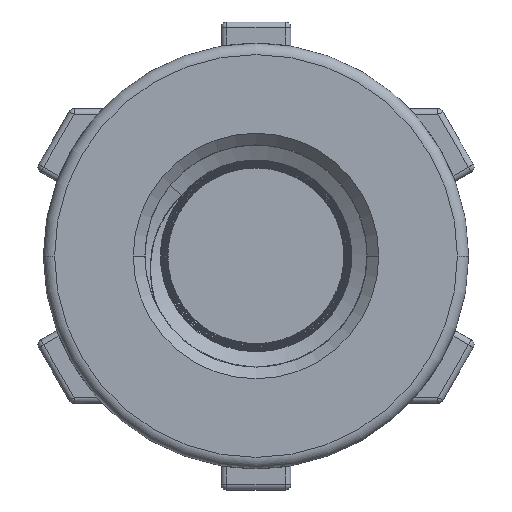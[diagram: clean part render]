
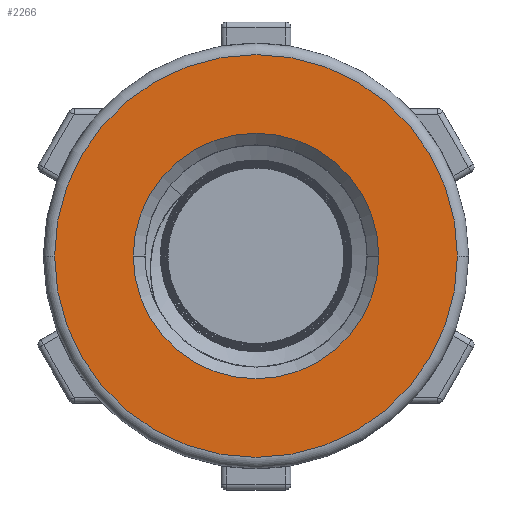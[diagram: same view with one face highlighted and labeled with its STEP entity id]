
A CAD part, front view. The second image highlights one B-rep face of the part: STEP entity #2266.
In plain terms, the highlighted planar face has unit normal (0, -1, 0).
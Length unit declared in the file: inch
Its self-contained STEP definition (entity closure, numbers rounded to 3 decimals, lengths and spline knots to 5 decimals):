
#614=VERTEX_POINT('',#4088);
#615=VERTEX_POINT('',#4090);
#616=VERTEX_POINT('',#4095);
#617=VERTEX_POINT('',#4096);
#785=CIRCLE('',#2438,0.70472);
#787=CIRCLE('',#2440,0.70472);
#788=CIRCLE('',#2442,0.42953);
#789=CIRCLE('',#2443,0.42953);
#930=EDGE_CURVE('',#615,#614,#785,.F.);
#932=EDGE_CURVE('',#614,#615,#787,.F.);
#933=EDGE_CURVE('',#616,#617,#788,.T.);
#934=EDGE_CURVE('',#617,#616,#789,.T.);
#1306=ORIENTED_EDGE('',*,*,#932,.T.);
#1307=ORIENTED_EDGE('',*,*,#930,.T.);
#1308=ORIENTED_EDGE('',*,*,#933,.T.);
#1309=ORIENTED_EDGE('',*,*,#934,.T.);
#1947=EDGE_LOOP('',(#1306,#1307));
#1948=EDGE_LOOP('',(#1308,#1309));
#2112=FACE_BOUND('',#1947,.T.);
#2113=FACE_BOUND('',#1948,.T.);
#2266=ADVANCED_FACE('',(#2112,#2113),#16079,.F.);
#2438=AXIS2_PLACEMENT_3D('',#4089,#2691,#2692);
#2440=AXIS2_PLACEMENT_3D('',#4092,#2695,#2696);
#2441=AXIS2_PLACEMENT_3D('',#4093,#2697,$);
#2442=AXIS2_PLACEMENT_3D('',#4094,#2698,#2699);
#2443=AXIS2_PLACEMENT_3D('',#4097,#2700,#2701);
#2691=DIRECTION('',(0.,1.,0.));
#2692=DIRECTION('',(0.,0.,0.705));
#2695=DIRECTION('',(0.,1.,0.));
#2696=DIRECTION('',(0.,0.,0.705));
#2697=DIRECTION('',(0.,1.,0.));
#2698=DIRECTION('',(0.,1.,0.));
#2699=DIRECTION('',(0.,0.,-0.43));
#2700=DIRECTION('',(0.,1.,0.));
#2701=DIRECTION('',(0.,0.,-0.43));
#4088=CARTESIAN_POINT('',(0.70472,-1.23425,0.));
#4089=CARTESIAN_POINT('',(0.,-1.23425,0.));
#4090=CARTESIAN_POINT('',(-0.70472,-1.23425,0.));
#4092=CARTESIAN_POINT('',(0.,-1.23425,0.));
#4093=CARTESIAN_POINT('',(0.,-1.23425,0.));
#4094=CARTESIAN_POINT('',(0.,-1.23425,0.));
#4095=CARTESIAN_POINT('',(0.42953,-1.23425,0.));
#4096=CARTESIAN_POINT('',(-0.42953,-1.23425,0.));
#4097=CARTESIAN_POINT('',(0.,-1.23425,0.));
#16079=PLANE('',#2441);
